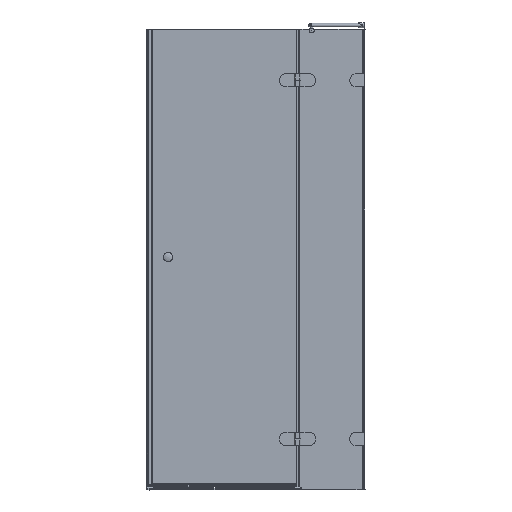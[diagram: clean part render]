
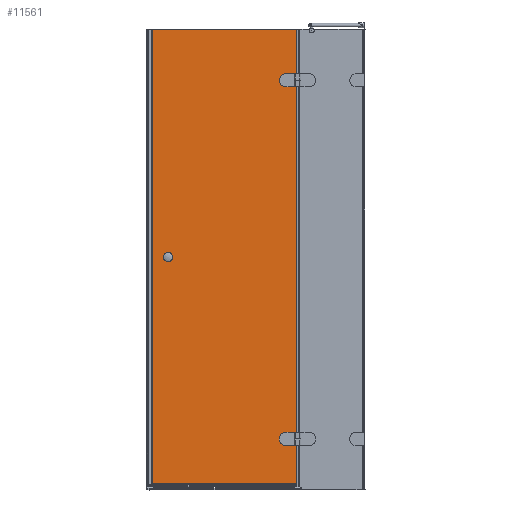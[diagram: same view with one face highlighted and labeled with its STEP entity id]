
A CAD part, front view. The second image highlights one B-rep face of the part: STEP entity #11561.
In plain terms, the highlighted planar face has unit normal (0, -1, 0).
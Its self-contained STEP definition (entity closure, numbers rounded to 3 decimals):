
#261=LINE($,#16996,#1401);
#265=LINE($,#17003,#1405);
#268=LINE($,#17012,#1408);
#311=LINE($,#17124,#1451);
#315=LINE($,#17131,#1455);
#318=LINE($,#17140,#1458);
#1027=LINE($,#19525,#2167);
#1054=LINE($,#19659,#2194);
#1087=LINE($,#19787,#2227);
#1088=LINE($,#19788,#2228);
#1401=VECTOR($,#13339,52.);
#1405=VECTOR($,#13345,23.);
#1408=VECTOR($,#13356,23.);
#1451=VECTOR($,#13463,52.);
#1455=VECTOR($,#13469,23.);
#1458=VECTOR($,#13480,23.);
#2167=VECTOR($,#15229,1875.4);
#2194=VECTOR($,#15318,1875.4);
#2227=VECTOR($,#15429,595.4);
#2228=VECTOR($,#15430,595.4);
#2474=FACE_BOUND($,#3869,.T.);
#2475=FACE_BOUND($,#3870,.T.);
#2476=FACE_BOUND($,#3871,.T.);
#3869=EDGE_LOOP($,(#9344,#9345,#9346,#9347));
#3870=EDGE_LOOP($,(#9348,#9349,#9350,#9351));
#3871=EDGE_LOOP($,(#9352,#9353,#9354,#9355));
#4081=CIRCLE($,#11912,26.);
#4093=CIRCLE($,#11949,26.);
#4566=VERTEX_POINT($,#16993);
#4567=VERTEX_POINT($,#16995);
#4569=VERTEX_POINT($,#17001);
#4571=VERTEX_POINT($,#17007);
#4607=VERTEX_POINT($,#17121);
#4608=VERTEX_POINT($,#17123);
#4610=VERTEX_POINT($,#17129);
#4612=VERTEX_POINT($,#17135);
#5187=VERTEX_POINT($,#19522);
#5188=VERTEX_POINT($,#19524);
#5237=VERTEX_POINT($,#19656);
#5238=VERTEX_POINT($,#19658);
#5626=EDGE_CURVE($,#4566,#4567,#261,.T.);
#5630=EDGE_CURVE($,#4569,#4566,#265,.T.);
#5633=EDGE_CURVE($,#4571,#4569,#4081,.T.);
#5635=EDGE_CURVE($,#4567,#4571,#268,.T.);
#5688=EDGE_CURVE($,#4607,#4608,#311,.T.);
#5692=EDGE_CURVE($,#4610,#4607,#315,.T.);
#5695=EDGE_CURVE($,#4612,#4610,#4093,.T.);
#5697=EDGE_CURVE($,#4608,#4612,#318,.T.);
#6616=EDGE_CURVE($,#5188,#5187,#1027,.T.);
#6669=EDGE_CURVE($,#5237,#5238,#1054,.T.);
#6721=EDGE_CURVE($,#5188,#5237,#1087,.T.);
#6722=EDGE_CURVE($,#5187,#5238,#1088,.T.);
#9344=ORIENTED_EDGE($,*,*,#5626,.F.);
#9345=ORIENTED_EDGE($,*,*,#5630,.F.);
#9346=ORIENTED_EDGE($,*,*,#5633,.F.);
#9347=ORIENTED_EDGE($,*,*,#5635,.F.);
#9348=ORIENTED_EDGE($,*,*,#5688,.F.);
#9349=ORIENTED_EDGE($,*,*,#5692,.F.);
#9350=ORIENTED_EDGE($,*,*,#5695,.F.);
#9351=ORIENTED_EDGE($,*,*,#5697,.F.);
#9352=ORIENTED_EDGE($,*,*,#6669,.F.);
#9353=ORIENTED_EDGE($,*,*,#6721,.F.);
#9354=ORIENTED_EDGE($,*,*,#6616,.T.);
#9355=ORIENTED_EDGE($,*,*,#6722,.T.);
#10306=PLANE($,#12540);
#11561=ADVANCED_FACE($,(#2474,#2475,#2476),#10306,.F.);
#11912=AXIS2_PLACEMENT_3D($,#17009,#13351,#13352);
#11949=AXIS2_PLACEMENT_3D($,#17137,#13475,#13476);
#12540=AXIS2_PLACEMENT_3D($,#19786,#15427,#15428);
#13339=DIRECTION($,(0.,0.,1.));
#13345=DIRECTION($,(1.,0.,0.));
#13351=DIRECTION('center_axis',(0.,-1.,0.));
#13352=DIRECTION('ref_axis',(0.,0.,
1.));
#13356=DIRECTION($,(-1.,0.,0.));
#13463=DIRECTION($,(0.,0.,1.));
#13469=DIRECTION($,(1.,0.,0.));
#13475=DIRECTION('center_axis',(0.,-1.,0.));
#13476=DIRECTION('ref_axis',(0.,0.,
1.));
#13480=DIRECTION($,(-1.,0.,0.));
#15229=DIRECTION($,(0.,0.,1.));
#15318=DIRECTION($,(0.,0.,1.));
#15427=DIRECTION('center_axis',(0.,1.,0.));
#15428=DIRECTION('ref_axis',(-1.,0.,0.));
#15429=DIRECTION($,(-1.,0.,0.));
#15430=DIRECTION($,(-1.,0.,0.));
#16993=CARTESIAN_POINT('',(2029.686,45.956,-330.056));
#16995=CARTESIAN_POINT('',(2029.686,45.956,-278.056));
#16996=CARTESIAN_POINT($,(2029.686,45.956,-412.056));
#17001=CARTESIAN_POINT('',(2006.686,45.956,-330.056));
#17003=CARTESIAN_POINT($,(2028.686,45.956,-330.056));
#17007=CARTESIAN_POINT('',(2006.686,45.956,-278.056));
#17009=CARTESIAN_POINT('Origin',(2006.686,45.956,-304.056));
#17012=CARTESIAN_POINT($,(2040.186,45.956,-278.056));
#17121=CARTESIAN_POINT('',(2029.686,45.956,1149.944));
#17123=CARTESIAN_POINT('',(2029.686,45.956,1201.944));
#17124=CARTESIAN_POINT($,(2029.686,45.956,327.944));
#17129=CARTESIAN_POINT('',(2006.686,45.956,1149.944));
#17131=CARTESIAN_POINT($,(2028.686,45.956,1149.944));
#17135=CARTESIAN_POINT('',(2006.686,45.956,1201.944));
#17137=CARTESIAN_POINT('Origin',(2006.686,45.956,1175.944));
#17140=CARTESIAN_POINT($,(2040.186,45.956,1201.944));
#19522=CARTESIAN_POINT('',(2050.686,45.956,1385.944));
#19524=CARTESIAN_POINT('',(2050.686,45.956,-489.456));
#19525=CARTESIAN_POINT($,(2050.686,45.956,-494.056));
#19656=CARTESIAN_POINT('',(1455.286,45.956,-489.456));
#19658=CARTESIAN_POINT('',(1455.286,45.956,1385.944));
#19659=CARTESIAN_POINT($,(1455.286,45.956,-494.056));
#19786=CARTESIAN_POINT('Origin',(2050.686,45.956,-494.056));
#19787=CARTESIAN_POINT($,(2050.686,45.956,-489.456));
#19788=CARTESIAN_POINT($,(2050.686,45.956,1385.944));
